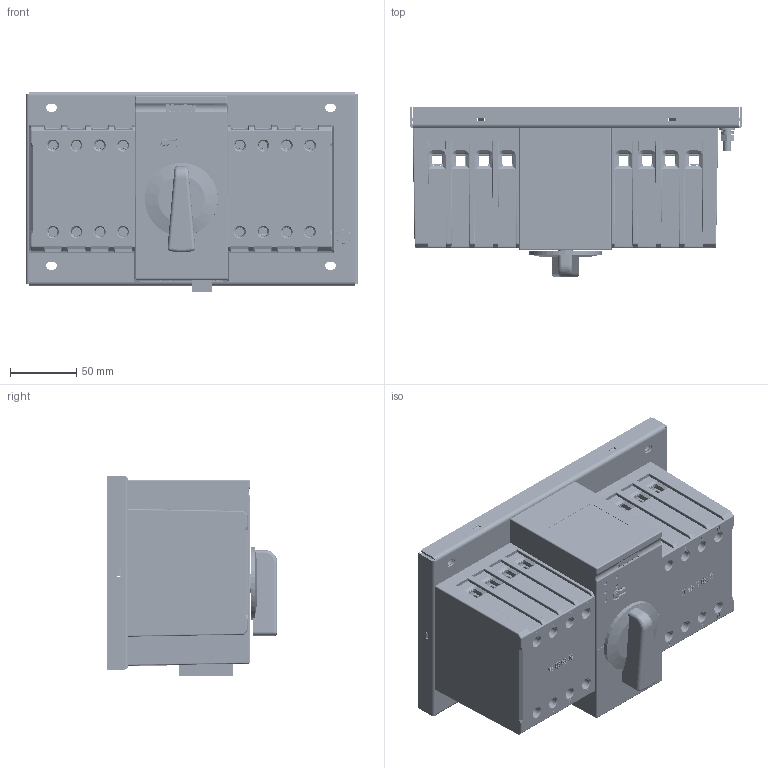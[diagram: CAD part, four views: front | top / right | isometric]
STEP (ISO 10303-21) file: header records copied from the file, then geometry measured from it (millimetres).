
FILE_DESCRIPTION(/* description */ (''),/* implementation_level */ '2;1');
FILE_NAME(/* name */ 'NDQ2A-63.stp',/* time_stamp */ '2021-12-01T10:10:29+08:00',/* author */ (''),/* organization */ (''),/* preprocessor_version */ 'ST-DEVELOPER v16',/* originating_system */ 'SIEMENS PLM Software NX 10.0',/* authorisation */ '');
FILE_SCHEMA (('AP203_CONFIGURATION_CONTROLLED_3D_DESIGN_OF_MECHANICAL_PARTS_AND_ASSEMBLIES_MIM_LF { 1 0 10303 403 2 1 2}'));
Products named in the file (1): 114A8BBED4cv8
Bounding box: 250 x 128.2 x 150.9 mm (x, y, z)
Volume: 805900.7 mm3; surface area: 829391.8 mm2
Topology: 155 solids, 979 shells, 18778 faces, 60989 edges, 43315 vertices
Faces by surface type: plane 14624, cylinder 2169, extrusion 1347, cone 240, bspline 155, torus 129, sphere 114
Full cylindrical faces by diameter (mm): 1 x164, 1.2 x2, 1.4 x23, 1.5 x10, 1.6 x8, 1.7 x8, 1.8 x4, 2 x8, 2.5 x10, 2.6 x2, 3 x24, 3.3 x4, 3.4 x6, 3.5 x9, 3.8 x16, 3.9 x2, 4 x28, 4.5 x23, 5 x17, 5.1 x1, 6 x13, 6.6 x2, 6.9 x4, 7 x5, 7.5 x16, 7.8 x2, 8 x3, 10 x17, 10.5 x1, 12 x6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
Entity records: 699237 total; most frequent: CARTESIAN_POINT 177183, ORIENTED_EDGE 107108, DIRECTION 95708, EDGE_CURVE 60205, VECTOR 49666, LINE 48319, VERTEX_POINT 43175, AXIS2_PLACEMENT_3D 23021
